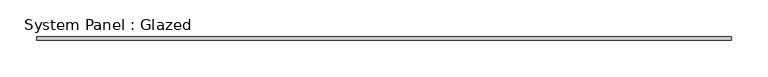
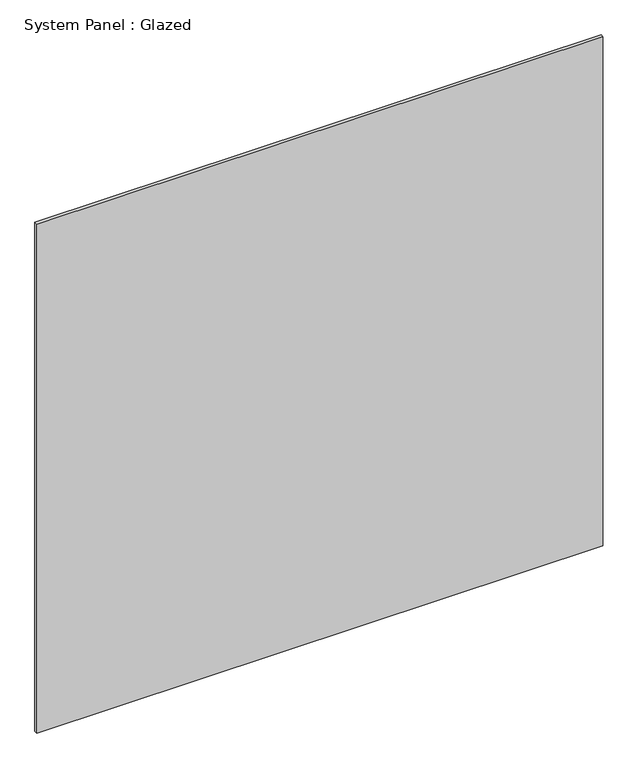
"""IFC4 building model written with IfcOpenShell, lengths in millimetres: plate geometry, System Panel : Glazed."""

from ifc_helpers import new_model, si_unit, origin, origin_with_axes, place, context, project, spatial, polyline, outline, extrude, source, transform, mapped, element, save


def system_panel_glazed_7648efc2(model_context):
    return source(origin(), model_context, "Body", "SweptSolid", [
        extrude(outline(polyline([(475.0, -2.5), (-475.0, -2.5), (-475.0, 2.5), (475.0, 2.5), (475.0, -2.5)])), origin_with_axes(), (0.0, 0.0, 1.0), 902.9584148),
    ])


if __name__ == "__main__":
    model = new_model("IFC4")
    model_context = context("Model", 3, world=origin())
    ifc_project = project(units=[si_unit("LENGTHUNIT", "METRE", prefix="MILLI")], contexts=[model_context])
    site = spatial("IfcSite", under=ifc_project)
    building = spatial("IfcBuilding", under=site)
    placement = place(None, origin())
    system_panel_glazed_shape = system_panel_glazed_7648efc2(model_context)
    element("IfcPlate", 1, ObjectType="System Panel : Glazed", at=placement, inside=building, context=model_context, shape_type="MappedRepresentation", body=[
        mapped(system_panel_glazed_shape, transform((0.0, 0.0, 0.0), x_axis=(1.0, 0.0, 0.0), y_axis=(0.0, 1.0, 0.0), z_axis=(0.0, 0.0, 1.0))),
    ])
    save(model, "model.ifc")
